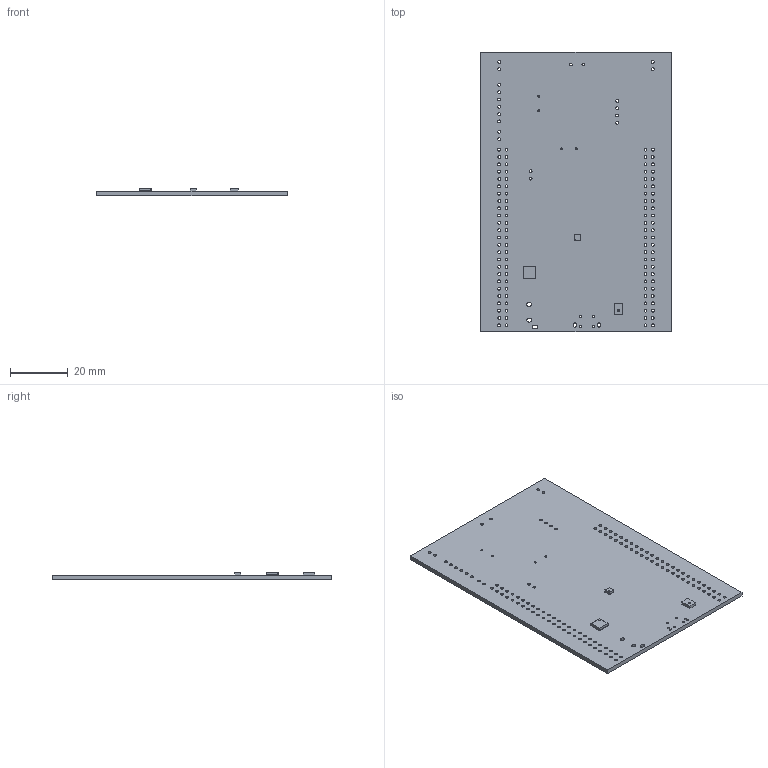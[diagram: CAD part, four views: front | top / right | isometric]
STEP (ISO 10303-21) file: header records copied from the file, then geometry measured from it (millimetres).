
FILE_DESCRIPTION(('Open CASCADE Model'),'2;1');
FILE_NAME('Open CASCADE Shape Model','2020-07-10T10:59:35',('Author'),( 'Open CASCADE'),'Open CASCADE STEP processor 6.8','Open CASCADE 6.8' ,'Unknown');
FILE_SCHEMA(('AUTOMOTIVE_DESIGN { 1 0 10303 214 1 1 1 1 }'));
Length unit declared in the file: millimetre
Products named in the file (21): PCB; Board; U7; LGA-16; 1789205136; Extruded; U10; 1789204592; 1791465184; Cylinder; 1791465440; 1791465568; U5; LGA12-2x2x0_9; 1791465696; 949481176
Assembly tree (20 placements, depth 4):
  PCB
    Board
    U7
      LGA-16
      1789205136
        Extruded
    U10
      1789204592
        Extruded
      1791465184
        Cylinder
      1791465440
        Cylinder
      1791465568
        Cylinder
    U5
      LGA12-2x2x0_9
      1791465696
        Cylinder
      949481176
        Extruded
Bounding box: 66 x 97 x 2.67 mm (x, y, z)
Volume: 9944.2 mm3; surface area: 13936.1 mm2
Topology: 10 solids, 10 shells, 342 faces, 876 edges, 584 vertices
Faces by surface type: plane 196, cylinder 144, torus 2
Full cylindrical faces by diameter (mm): 0.2 x1, 0.5 x2, 0.65 x2, 0.7 x5, 0.9 x2, 1 x120
Entity records: 12112 total; most frequent: DIRECTION 1896, CARTESIAN_POINT 1823, ORIENTED_EDGE 1752, EDGE_CURVE 876, AXIS2_PLACEMENT_3D 657, FACE_BOUND 638, EDGE_LOOP 638, VERTEX_POINT 584
